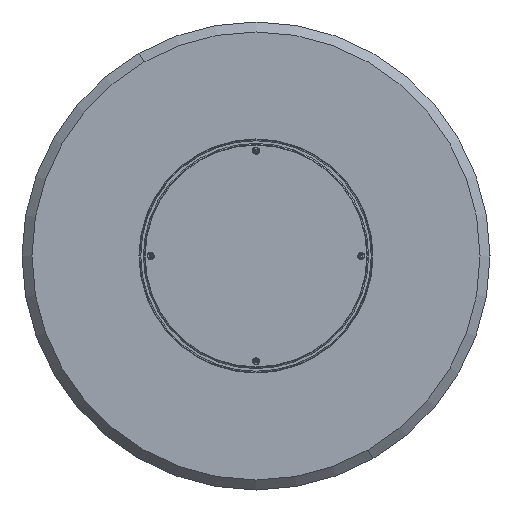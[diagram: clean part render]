
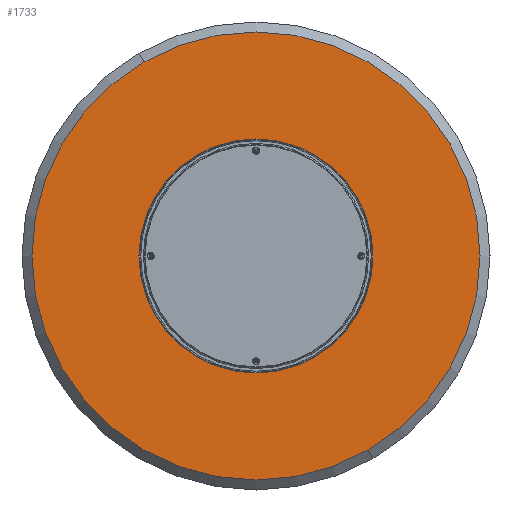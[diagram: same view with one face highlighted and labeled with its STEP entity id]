
A CAD part, front view. The second image highlights one B-rep face of the part: STEP entity #1733.
In plain terms, the highlighted planar face has unit normal (0, -1, 0).
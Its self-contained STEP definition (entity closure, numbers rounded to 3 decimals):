
#64 = ORIENTED_EDGE ( 'NONE', *, *, #221, .F. ) ;
#90 = EDGE_CURVE ( 'NONE', #1643, #2567, #2664, .T. ) ;
#99 = AXIS2_PLACEMENT_3D ( 'NONE', #5806, #843, #4851 ) ;
#146 = DIRECTION ( 'NONE',  ( 0., 0., -1. ) ) ;
#221 = EDGE_CURVE ( 'NONE', #4197, #710, #3809, .T. ) ;
#261 = EDGE_CURVE ( 'NONE', #274, #2367, #2962, .T. ) ;
#262 = VERTEX_POINT ( 'NONE', #1422 ) ;
#274 = VERTEX_POINT ( 'NONE', #2756 ) ;
#426 = EDGE_CURVE ( 'NONE', #2705, #262, #2103, .T. ) ;
#509 = AXIS2_PLACEMENT_3D ( 'NONE', #1451, #1955, #146 ) ;
#590 = CIRCLE ( 'NONE', #1637, 383. ) ;
#594 = DIRECTION ( 'NONE',  ( 0., -1., 0. ) ) ;
#708 = AXIS2_PLACEMENT_3D ( 'NONE', #5295, #2938, #1212 ) ;
#710 = VERTEX_POINT ( 'NONE', #4159 ) ;
#788 = CARTESIAN_POINT ( 'NONE',  ( -95., 0., -54.848 ) ) ;
#791 = ORIENTED_EDGE ( 'NONE', *, *, #4647, .F. ) ;
#843 = DIRECTION ( 'NONE',  ( 0., -1., 0. ) ) ;
#851 = FACE_BOUND ( 'NONE', #1430, .T. ) ;
#951 = CARTESIAN_POINT ( 'NONE',  ( 0., 0., 3.4 ) ) ;
#1026 = EDGE_CURVE ( 'NONE', #2251, #1988, #590, .T. ) ;
#1084 = CARTESIAN_POINT ( 'NONE',  ( 0., 0., 0. ) ) ;
#1201 = CARTESIAN_POINT ( 'NONE',  ( 95., 0., -58.248 ) ) ;
#1212 = DIRECTION ( 'NONE',  ( 0., 0., -1. ) ) ;
#1228 = CARTESIAN_POINT ( 'NONE',  ( 0., 0., 0. ) ) ;
#1283 = DIRECTION ( 'NONE',  ( 0., 0., -1. ) ) ;
#1309 = CARTESIAN_POINT ( 'NONE',  ( -95., 0., -54.848 ) ) ;
#1422 = CARTESIAN_POINT ( 'NONE',  ( 0., 0., 106.297 ) ) ;
#1430 = EDGE_LOOP ( 'NONE', ( #2671, #5680 ) ) ;
#1451 = CARTESIAN_POINT ( 'NONE',  ( 95., 0., -54.848 ) ) ;
#1538 = DIRECTION ( 'NONE',  ( 0., 0., -1. ) ) ;
#1637 = AXIS2_PLACEMENT_3D ( 'NONE', #1084, #5604, #5195 ) ;
#1643 = VERTEX_POINT ( 'NONE', #1201 ) ;
#1663 = EDGE_CURVE ( 'NONE', #2367, #274, #2872, .T. ) ;
#1681 = FACE_OUTER_BOUND ( 'NONE', #2851, .T. ) ;
#1700 = ORIENTED_EDGE ( 'NONE', *, *, #2343, .T. ) ;
#1706 = DIRECTION ( 'NONE',  ( 0., 0., -1. ) ) ;
#1733 = ADVANCED_FACE ( 'NONE', ( #4921, #851, #5846, #1681, #5789 ), #3943, .T. ) ;
#1755 = DIRECTION ( 'NONE',  ( 0., -1., 0. ) ) ;
#1782 = EDGE_LOOP ( 'NONE', ( #64, #791 ) ) ;
#1809 = DIRECTION ( 'NONE',  ( 0., -1., 0. ) ) ;
#1941 = EDGE_CURVE ( 'NONE', #2567, #1643, #5359, .T. ) ;
#1955 = DIRECTION ( 'NONE',  ( 0., -1., 0. ) ) ;
#1988 = VERTEX_POINT ( 'NONE', #3751 ) ;
#2103 = CIRCLE ( 'NONE', #4194, 3.4 ) ;
#2215 = AXIS2_PLACEMENT_3D ( 'NONE', #5762, #3080, #2621 ) ;
#2251 = VERTEX_POINT ( 'NONE', #3965 ) ;
#2343 = EDGE_CURVE ( 'NONE', #1988, #2251, #2404, .T. ) ;
#2367 = VERTEX_POINT ( 'NONE', #951 ) ;
#2404 = CIRCLE ( 'NONE', #5145, 383. ) ;
#2490 = AXIS2_PLACEMENT_3D ( 'NONE', #1228, #4858, #1706 ) ;
#2567 = VERTEX_POINT ( 'NONE', #3266 ) ;
#2621 = DIRECTION ( 'NONE',  ( 0., 0., -1. ) ) ;
#2664 = CIRCLE ( 'NONE', #99, 3.4 ) ;
#2668 = DIRECTION ( 'NONE',  ( 0., 0., -1. ) ) ;
#2671 = ORIENTED_EDGE ( 'NONE', *, *, #3500, .F. ) ;
#2705 = VERTEX_POINT ( 'NONE', #5444 ) ;
#2756 = CARTESIAN_POINT ( 'NONE',  ( 0., 0., -3.4 ) ) ;
#2851 = EDGE_LOOP ( 'NONE', ( #3138, #1700 ) ) ;
#2872 = CIRCLE ( 'NONE', #2215, 3.4 ) ;
#2938 = DIRECTION ( 'NONE',  ( 0., -1., 0. ) ) ;
#2962 = CIRCLE ( 'NONE', #5514, 3.4 ) ;
#3080 = DIRECTION ( 'NONE',  ( 0., -1., 0. ) ) ;
#3136 = DIRECTION ( 'NONE',  ( 0., 0., -1. ) ) ;
#3138 = ORIENTED_EDGE ( 'NONE', *, *, #1026, .T. ) ;
#3216 = CARTESIAN_POINT ( 'NONE',  ( 0., 0., 0. ) ) ;
#3266 = CARTESIAN_POINT ( 'NONE',  ( 95., 0., -51.448 ) ) ;
#3500 = EDGE_CURVE ( 'NONE', #262, #2705, #4415, .T. ) ;
#3655 = DIRECTION ( 'NONE',  ( 0., -1., 0. ) ) ;
#3751 = CARTESIAN_POINT ( 'NONE',  ( 0., 0., -383. ) ) ;
#3799 = ORIENTED_EDGE ( 'NONE', *, *, #261, .F. ) ;
#3809 = CIRCLE ( 'NONE', #5431, 3.4 ) ;
#3943 = PLANE ( 'NONE',  #2490 ) ;
#3965 = CARTESIAN_POINT ( 'NONE',  ( 0., 0., 383. ) ) ;
#4035 = CARTESIAN_POINT ( 'NONE',  ( -95., 0., -58.248 ) ) ;
#4072 = ORIENTED_EDGE ( 'NONE', *, *, #1941, .F. ) ;
#4159 = CARTESIAN_POINT ( 'NONE',  ( -95., 0., -51.448 ) ) ;
#4194 = AXIS2_PLACEMENT_3D ( 'NONE', #4284, #594, #1538 ) ;
#4197 = VERTEX_POINT ( 'NONE', #4035 ) ;
#4284 = CARTESIAN_POINT ( 'NONE',  ( 0., 0., 109.697 ) ) ;
#4327 = AXIS2_PLACEMENT_3D ( 'NONE', #788, #3655, #1283 ) ;
#4371 = EDGE_LOOP ( 'NONE', ( #3799, #4626 ) ) ;
#4374 = ORIENTED_EDGE ( 'NONE', *, *, #90, .F. ) ;
#4415 = CIRCLE ( 'NONE', #708, 3.4 ) ;
#4626 = ORIENTED_EDGE ( 'NONE', *, *, #1663, .F. ) ;
#4647 = EDGE_CURVE ( 'NONE', #710, #4197, #5850, .T. ) ;
#4851 = DIRECTION ( 'NONE',  ( 0., 0., -1. ) ) ;
#4858 = DIRECTION ( 'NONE',  ( 0., -1., 0. ) ) ;
#4921 = FACE_BOUND ( 'NONE', #1782, .T. ) ;
#4939 = DIRECTION ( 'NONE',  ( 0., -1., 0. ) ) ;
#5145 = AXIS2_PLACEMENT_3D ( 'NONE', #5468, #1755, #5393 ) ;
#5195 = DIRECTION ( 'NONE',  ( 0., 0., -1. ) ) ;
#5207 = EDGE_LOOP ( 'NONE', ( #4374, #4072 ) ) ;
#5295 = CARTESIAN_POINT ( 'NONE',  ( 0., 0., 109.697 ) ) ;
#5359 = CIRCLE ( 'NONE', #509, 3.4 ) ;
#5393 = DIRECTION ( 'NONE',  ( 0., 0., -1. ) ) ;
#5431 = AXIS2_PLACEMENT_3D ( 'NONE', #1309, #4939, #2668 ) ;
#5444 = CARTESIAN_POINT ( 'NONE',  ( 0., 0., 113.097 ) ) ;
#5468 = CARTESIAN_POINT ( 'NONE',  ( 0., 0., 0. ) ) ;
#5514 = AXIS2_PLACEMENT_3D ( 'NONE', #3216, #1809, #3136 ) ;
#5604 = DIRECTION ( 'NONE',  ( 0., -1., 0. ) ) ;
#5680 = ORIENTED_EDGE ( 'NONE', *, *, #426, .F. ) ;
#5762 = CARTESIAN_POINT ( 'NONE',  ( 0., 0., 0. ) ) ;
#5789 = FACE_BOUND ( 'NONE', #4371, .T. ) ;
#5806 = CARTESIAN_POINT ( 'NONE',  ( 95., 0., -54.848 ) ) ;
#5846 = FACE_BOUND ( 'NONE', #5207, .T. ) ;
#5850 = CIRCLE ( 'NONE', #4327, 3.4 ) ;
